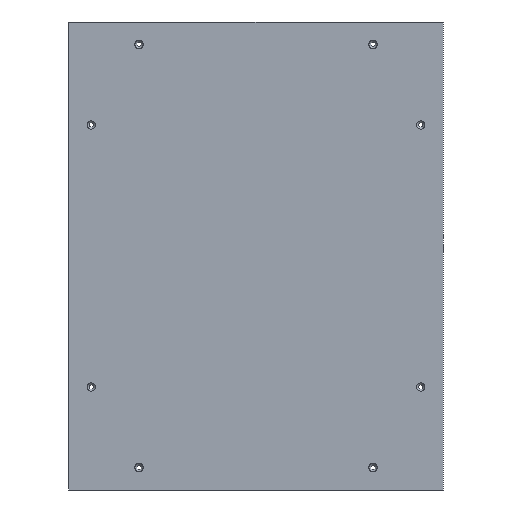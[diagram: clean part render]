
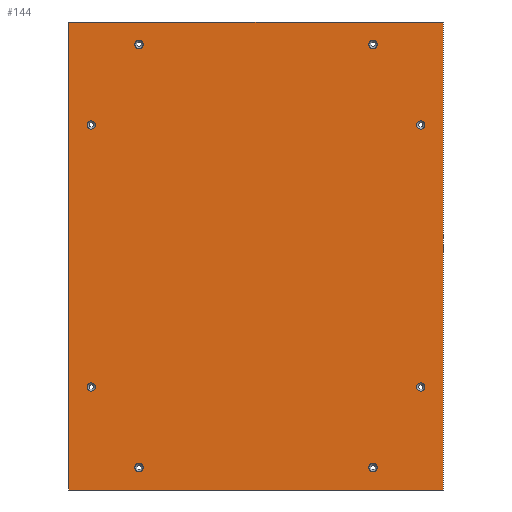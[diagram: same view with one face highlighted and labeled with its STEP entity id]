
A CAD part, front view. The second image highlights one B-rep face of the part: STEP entity #144.
In plain terms, the highlighted planar face has unit normal (0, -1, 0).
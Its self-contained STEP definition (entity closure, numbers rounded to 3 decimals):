
#4 = VECTOR ( 'NONE', #489, 1000. ) ;
#8 = ORIENTED_EDGE ( 'NONE', *, *, #77, .T. ) ;
#10 = ORIENTED_EDGE ( 'NONE', *, *, #519, .T. ) ;
#17 = FACE_BOUND ( 'NONE', #334, .T. ) ;
#18 = EDGE_LOOP ( 'NONE', ( #518 ) ) ;
#19 = CARTESIAN_POINT ( 'NONE',  ( 176., 0., 140. ) ) ;
#21 = ORIENTED_EDGE ( 'NONE', *, *, #431, .T. ) ;
#23 = DIRECTION ( 'NONE',  ( 1., 0., 0. ) ) ;
#27 = AXIS2_PLACEMENT_3D ( 'NONE', #323, #633, #625 ) ;
#31 = FACE_BOUND ( 'NONE', #139, .T. ) ;
#33 = CARTESIAN_POINT ( 'NONE',  ( -176., 0., -144.5 ) ) ;
#44 = CARTESIAN_POINT ( 'NONE',  ( -176., 0., 135.5 ) ) ;
#49 = ORIENTED_EDGE ( 'NONE', *, *, #236, .F. ) ;
#53 = CARTESIAN_POINT ( 'NONE',  ( -125., 0., 226. ) ) ;
#54 = VERTEX_POINT ( 'NONE', #507 ) ;
#66 = CARTESIAN_POINT ( 'NONE',  ( 0., 0., 0. ) ) ;
#68 = AXIS2_PLACEMENT_3D ( 'NONE', #76, #439, #286 ) ;
#76 = CARTESIAN_POINT ( 'NONE',  ( -176., 0., 140. ) ) ;
#77 = EDGE_CURVE ( 'NONE', #186, #186, #329, .T. ) ;
#78 = FACE_BOUND ( 'NONE', #276, .T. ) ;
#79 = CIRCLE ( 'NONE', #459, 4.5 ) ;
#80 = VERTEX_POINT ( 'NONE', #33 ) ;
#103 = VERTEX_POINT ( 'NONE', #315 ) ;
#108 = AXIS2_PLACEMENT_3D ( 'NONE', #53, #257, #631 ) ;
#115 = EDGE_CURVE ( 'NONE', #126, #126, #267, .T. ) ;
#116 = DIRECTION ( 'NONE',  ( 0., 0., -1. ) ) ;
#126 = VERTEX_POINT ( 'NONE', #335 ) ;
#127 = VECTOR ( 'NONE', #242, 1000. ) ;
#133 = VERTEX_POINT ( 'NONE', #568 ) ;
#139 = EDGE_LOOP ( 'NONE', ( #243 ) ) ;
#144 = ADVANCED_FACE ( 'NONE', ( #380, #176, #78, #482, #31, #637, #17, #232, #529 ), #583, .T. ) ;
#149 = AXIS2_PLACEMENT_3D ( 'NONE', #66, #435, #388 ) ;
#151 = VECTOR ( 'NONE', #579, 1000. ) ;
#166 = DIRECTION ( 'NONE',  ( 0., 1., 0. ) ) ;
#171 = AXIS2_PLACEMENT_3D ( 'NONE', #19, #432, #264 ) ;
#172 = EDGE_CURVE ( 'NONE', #338, #338, #490, .T. ) ;
#176 = FACE_BOUND ( 'NONE', #534, .T. ) ;
#180 = ORIENTED_EDGE ( 'NONE', *, *, #478, .T. ) ;
#186 = VERTEX_POINT ( 'NONE', #434 ) ;
#193 = EDGE_CURVE ( 'NONE', #103, #455, #265, .T. ) ;
#195 = VERTEX_POINT ( 'NONE', #391 ) ;
#196 = CIRCLE ( 'NONE', #68, 4.5 ) ;
#212 = LINE ( 'NONE', #376, #151 ) ;
#217 = CARTESIAN_POINT ( 'NONE',  ( 200., 0., 250. ) ) ;
#232 = FACE_BOUND ( 'NONE', #584, .T. ) ;
#236 = EDGE_CURVE ( 'NONE', #133, #103, #536, .T. ) ;
#240 = ORIENTED_EDGE ( 'NONE', *, *, #559, .F. ) ;
#241 = VERTEX_POINT ( 'NONE', #44 ) ;
#242 = DIRECTION ( 'NONE',  ( -1., 0., 0. ) ) ;
#243 = ORIENTED_EDGE ( 'NONE', *, *, #617, .T. ) ;
#248 = AXIS2_PLACEMENT_3D ( 'NONE', #263, #475, #309 ) ;
#257 = DIRECTION ( 'NONE',  ( 0., 1., 0. ) ) ;
#263 = CARTESIAN_POINT ( 'NONE',  ( 125., 0., -226. ) ) ;
#264 = DIRECTION ( 'NONE',  ( 0., 0., -1. ) ) ;
#265 = LINE ( 'NONE', #217, #4 ) ;
#267 = CIRCLE ( 'NONE', #248, 4.5 ) ;
#275 = CARTESIAN_POINT ( 'NONE',  ( -200., 0., 250. ) ) ;
#276 = EDGE_LOOP ( 'NONE', ( #410 ) ) ;
#279 = DIRECTION ( 'NONE',  ( 0., 1., 0. ) ) ;
#284 = CARTESIAN_POINT ( 'NONE',  ( -125., 0., -226. ) ) ;
#286 = DIRECTION ( 'NONE',  ( 0., 0., -1. ) ) ;
#290 = VERTEX_POINT ( 'NONE', #306 ) ;
#298 = EDGE_LOOP ( 'NONE', ( #461, #49, #240, #418 ) ) ;
#306 = CARTESIAN_POINT ( 'NONE',  ( 176., 0., 135.5 ) ) ;
#309 = DIRECTION ( 'NONE',  ( 0., 0., -1. ) ) ;
#315 = CARTESIAN_POINT ( 'NONE',  ( 200., 0., 250. ) ) ;
#323 = CARTESIAN_POINT ( 'NONE',  ( -176., 0., -140. ) ) ;
#325 = DIRECTION ( 'NONE',  ( 0., 1., 0. ) ) ;
#326 = EDGE_CURVE ( 'NONE', #455, #195, #548, .T. ) ;
#329 = CIRCLE ( 'NONE', #108, 4.5 ) ;
#331 = CIRCLE ( 'NONE', #408, 4.5 ) ;
#334 = EDGE_LOOP ( 'NONE', ( #21 ) ) ;
#335 = CARTESIAN_POINT ( 'NONE',  ( 125., 0., -230.5 ) ) ;
#338 = VERTEX_POINT ( 'NONE', #444 ) ;
#370 = DIRECTION ( 'NONE',  ( 0., 0., -1. ) ) ;
#376 = CARTESIAN_POINT ( 'NONE',  ( -200., 0., 250. ) ) ;
#380 = FACE_BOUND ( 'NONE', #18, .T. ) ;
#388 = DIRECTION ( 'NONE',  ( 0., 0., -1. ) ) ;
#391 = CARTESIAN_POINT ( 'NONE',  ( -200., 0., -250. ) ) ;
#397 = CARTESIAN_POINT ( 'NONE',  ( -200., 0., -250. ) ) ;
#408 = AXIS2_PLACEMENT_3D ( 'NONE', #635, #166, #370 ) ;
#410 = ORIENTED_EDGE ( 'NONE', *, *, #172, .T. ) ;
#415 = EDGE_LOOP ( 'NONE', ( #8 ) ) ;
#418 = ORIENTED_EDGE ( 'NONE', *, *, #326, .F. ) ;
#420 = CARTESIAN_POINT ( 'NONE',  ( 125., 0., 226. ) ) ;
#427 = CIRCLE ( 'NONE', #171, 4.5 ) ;
#431 = EDGE_CURVE ( 'NONE', #541, #541, #79, .T. ) ;
#432 = DIRECTION ( 'NONE',  ( 0., 1., 0. ) ) ;
#434 = CARTESIAN_POINT ( 'NONE',  ( -125., 0., 221.5 ) ) ;
#435 = DIRECTION ( 'NONE',  ( 0., -1., 0. ) ) ;
#439 = DIRECTION ( 'NONE',  ( 0., 1., 0. ) ) ;
#444 = CARTESIAN_POINT ( 'NONE',  ( -125., 0., -230.5 ) ) ;
#455 = VERTEX_POINT ( 'NONE', #585 ) ;
#459 = AXIS2_PLACEMENT_3D ( 'NONE', #420, #325, #573 ) ;
#461 = ORIENTED_EDGE ( 'NONE', *, *, #193, .F. ) ;
#475 = DIRECTION ( 'NONE',  ( 0., 1., 0. ) ) ;
#478 = EDGE_CURVE ( 'NONE', #80, #80, #630, .T. ) ;
#482 = FACE_BOUND ( 'NONE', #658, .T. ) ;
#489 = DIRECTION ( 'NONE',  ( 0., 0., -1. ) ) ;
#490 = CIRCLE ( 'NONE', #514, 4.5 ) ;
#507 = CARTESIAN_POINT ( 'NONE',  ( 176., 0., -144.5 ) ) ;
#514 = AXIS2_PLACEMENT_3D ( 'NONE', #284, #279, #116 ) ;
#518 = ORIENTED_EDGE ( 'NONE', *, *, #537, .T. ) ;
#519 = EDGE_CURVE ( 'NONE', #290, #290, #427, .T. ) ;
#529 = FACE_OUTER_BOUND ( 'NONE', #298, .T. ) ;
#534 = EDGE_LOOP ( 'NONE', ( #596 ) ) ;
#536 = LINE ( 'NONE', #275, #597 ) ;
#537 = EDGE_CURVE ( 'NONE', #54, #54, #331, .T. ) ;
#541 = VERTEX_POINT ( 'NONE', #594 ) ;
#548 = LINE ( 'NONE', #397, #127 ) ;
#559 = EDGE_CURVE ( 'NONE', #195, #133, #212, .T. ) ;
#568 = CARTESIAN_POINT ( 'NONE',  ( -200., 0., 250. ) ) ;
#573 = DIRECTION ( 'NONE',  ( 0., 0., -1. ) ) ;
#579 = DIRECTION ( 'NONE',  ( 0., 0., 1. ) ) ;
#583 = PLANE ( 'NONE',  #149 ) ;
#584 = EDGE_LOOP ( 'NONE', ( #10 ) ) ;
#585 = CARTESIAN_POINT ( 'NONE',  ( 200., 0., -250. ) ) ;
#594 = CARTESIAN_POINT ( 'NONE',  ( 125., 0., 221.5 ) ) ;
#596 = ORIENTED_EDGE ( 'NONE', *, *, #115, .T. ) ;
#597 = VECTOR ( 'NONE', #23, 1000. ) ;
#617 = EDGE_CURVE ( 'NONE', #241, #241, #196, .T. ) ;
#625 = DIRECTION ( 'NONE',  ( 0., 0., -1. ) ) ;
#630 = CIRCLE ( 'NONE', #27, 4.5 ) ;
#631 = DIRECTION ( 'NONE',  ( 0., 0., -1. ) ) ;
#633 = DIRECTION ( 'NONE',  ( 0., 1., 0. ) ) ;
#635 = CARTESIAN_POINT ( 'NONE',  ( 176., 0., -140. ) ) ;
#637 = FACE_BOUND ( 'NONE', #415, .T. ) ;
#658 = EDGE_LOOP ( 'NONE', ( #180 ) ) ;
